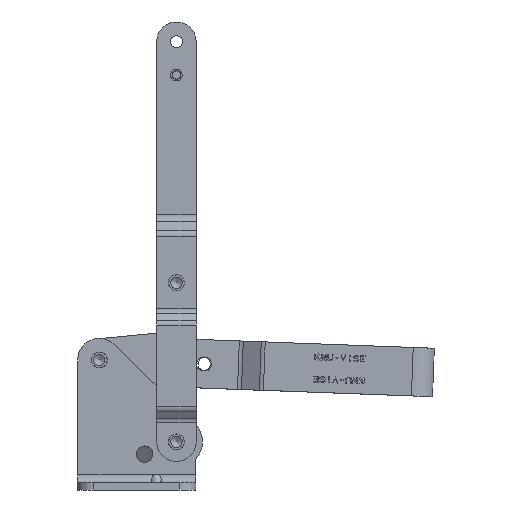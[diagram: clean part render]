
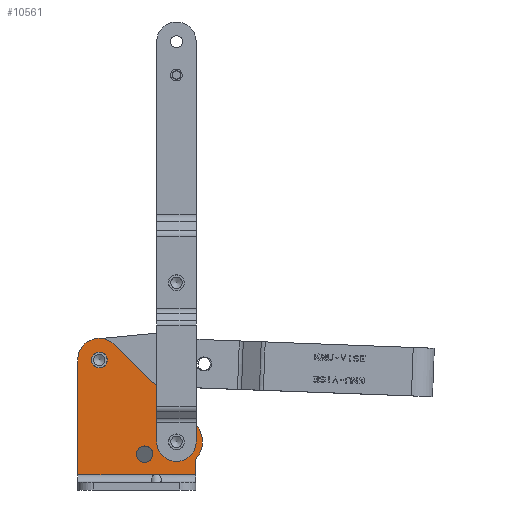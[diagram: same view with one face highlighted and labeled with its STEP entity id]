
A CAD part, front view. The second image highlights one B-rep face of the part: STEP entity #10561.
In plain terms, the highlighted planar face has unit normal (0, -1, 0).
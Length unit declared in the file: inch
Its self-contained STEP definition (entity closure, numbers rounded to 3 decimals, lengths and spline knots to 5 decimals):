
#38=ELLIPSE('',#37233,0.13294,0.094);
#2804=LINE('',#53628,#7200);
#2805=LINE('',#53631,#7201);
#2806=LINE('',#53637,#7202);
#2807=LINE('',#53641,#7203);
#2808=LINE('',#53643,#7204);
#7200=VECTOR('',#43713,1.);
#7201=VECTOR('',#43714,1.);
#7202=VECTOR('',#43719,1.);
#7203=VECTOR('',#43722,1.);
#7204=VECTOR('',#43723,1.);
#10561=ADVANCED_FACE('',(#14004,#14950,#14951,#14952),#12308,.T.);
#12308=PLANE('',#37237);
#14004=FACE_OUTER_BOUND('',#16503,.T.);
#14950=FACE_BOUND('',#16504,.T.);
#14951=FACE_BOUND('',#16505,.T.);
#14952=FACE_BOUND('',#16506,.T.);
#16503=EDGE_LOOP('',(#23395,#23396,#23397,#23398,#23399,#23400,#23401,#23402,
#23403));
#16504=EDGE_LOOP('',(#23404));
#16505=EDGE_LOOP('',(#23405));
#16506=EDGE_LOOP('',(#23406));
#23395=ORIENTED_EDGE('',*,*,#33495,.T.);
#23396=ORIENTED_EDGE('',*,*,#33496,.F.);
#23397=ORIENTED_EDGE('',*,*,#33497,.F.);
#23398=ORIENTED_EDGE('',*,*,#33498,.F.);
#23399=ORIENTED_EDGE('',*,*,#33499,.T.);
#23400=ORIENTED_EDGE('',*,*,#33500,.F.);
#23401=ORIENTED_EDGE('',*,*,#33501,.T.);
#23402=ORIENTED_EDGE('',*,*,#33502,.T.);
#23403=ORIENTED_EDGE('',*,*,#33503,.F.);
#23404=ORIENTED_EDGE('',*,*,#33504,.T.);
#23405=ORIENTED_EDGE('',*,*,#33505,.T.);
#23406=ORIENTED_EDGE('',*,*,#33506,.F.);
#29211=VERTEX_POINT('',#53629);
#29212=VERTEX_POINT('',#53630);
#29213=VERTEX_POINT('',#53632);
#29214=VERTEX_POINT('',#53634);
#29215=VERTEX_POINT('',#53636);
#29216=VERTEX_POINT('',#53638);
#29217=VERTEX_POINT('',#53640);
#29218=VERTEX_POINT('',#53642);
#29219=VERTEX_POINT('',#53644);
#29220=VERTEX_POINT('',#53647);
#29221=VERTEX_POINT('',#53649);
#29222=VERTEX_POINT('',#53651);
#33495=EDGE_CURVE('',#29211,#29212,#2804,.T.);
#33496=EDGE_CURVE('',#29213,#29212,#2805,.T.);
#33497=EDGE_CURVE('',#29214,#29213,#35624,.T.);
#33498=EDGE_CURVE('',#29215,#29214,#35625,.T.);
#33499=EDGE_CURVE('',#29215,#29216,#2806,.T.);
#33500=EDGE_CURVE('',#29217,#29216,#35626,.T.);
#33501=EDGE_CURVE('',#29217,#29218,#2807,.T.);
#33502=EDGE_CURVE('',#29218,#29219,#2808,.T.);
#33503=EDGE_CURVE('',#29211,#29219,#38,.T.);
#33504=EDGE_CURVE('',#29220,#29220,#35627,.T.);
#33505=EDGE_CURVE('',#29221,#29221,#35628,.T.);
#33506=EDGE_CURVE('',#29222,#29222,#35629,.T.);
#35624=CIRCLE('',#37230,0.03125);
#35625=CIRCLE('',#37231,0.413);
#35626=CIRCLE('',#37232,0.343);
#35627=CIRCLE('',#37234,0.1265);
#35628=CIRCLE('',#37235,0.189);
#35629=CIRCLE('',#37236,0.13);
#37230=AXIS2_PLACEMENT_3D('',#53633,#43715,#43716);
#37231=AXIS2_PLACEMENT_3D('',#53635,#43717,#43718);
#37232=AXIS2_PLACEMENT_3D('',#53639,#43720,#43721);
#37233=AXIS2_PLACEMENT_3D('',#53645,#43724,#43725);
#37234=AXIS2_PLACEMENT_3D('',#53646,#43726,#43727);
#37235=AXIS2_PLACEMENT_3D('',#53648,#43728,#43729);
#37236=AXIS2_PLACEMENT_3D('',#53650,#43730,#43731);
#37237=AXIS2_PLACEMENT_3D('',#53652,#43732,#43733);
#43713=DIRECTION('',(1.,0.,0.));
#43714=DIRECTION('',(0.,0.,-1.));
#43715=DIRECTION('',(0.,-1.,0.));
#43716=DIRECTION('',(0.,0.,1.));
#43717=DIRECTION('',(0.,1.,0.));
#43718=DIRECTION('',(-1.,0.,0.));
#43719=DIRECTION('',(-0.714,0.,0.7));
#43720=DIRECTION('',(0.,1.,0.));
#43721=DIRECTION('',(-1.,0.,0.));
#43722=DIRECTION('',(0.,0.,-1.));
#43723=DIRECTION('',(1.,0.,0.));
#43724=DIRECTION('',(0.,-1.,0.));
#43725=DIRECTION('',(0.,0.,1.));
#43726=DIRECTION('',(0.,1.,0.));
#43727=DIRECTION('',(-1.,0.,0.));
#43728=DIRECTION('',(0.,1.,0.));
#43729=DIRECTION('',(-1.,0.,0.));
#43730=DIRECTION('',(0.,-1.,0.));
#43731=DIRECTION('',(0.,0.,1.));
#43732=DIRECTION('',(0.,-1.,0.));
#43733=DIRECTION('',(0.,0.,1.));
#53628=CARTESIAN_POINT('',(-1.57,-0.2786,-0.52));
#53629=CARTESIAN_POINT('',(-0.29348,-0.2786,-0.52));
#53630=CARTESIAN_POINT('',(0.305,-0.2786,-0.52));
#53631=CARTESIAN_POINT('',(0.305,-0.2786,-0.27847));
#53632=CARTESIAN_POINT('',(0.305,-0.2786,-0.29033));
#53633=CARTESIAN_POINT('',(0.33625,-0.2786,-0.29033));
#53634=CARTESIAN_POINT('',(0.3126,-0.2786,-0.26991));
#53635=CARTESIAN_POINT('',(0.,-0.2786,0.));
#53636=CARTESIAN_POINT('',(0.28925,-0.2786,0.29479));
#53637=CARTESIAN_POINT('',(0.28925,-0.2786,0.29479));
#53638=CARTESIAN_POINT('',(-0.98677,-0.2786,1.54683));
#53639=CARTESIAN_POINT('',(-1.227,-0.2786,1.302));
#53640=CARTESIAN_POINT('',(-1.57,-0.2786,1.302));
#53641=CARTESIAN_POINT('',(-1.57,-0.2786,1.302));
#53642=CARTESIAN_POINT('',(-1.57,-0.2786,-0.52));
#53643=CARTESIAN_POINT('',(-1.57,-0.2786,-0.52));
#53644=CARTESIAN_POINT('',(-0.34652,-0.2786,-0.52));
#53645=CARTESIAN_POINT('',(-0.32,-0.2786,-0.64754));
#53646=CARTESIAN_POINT('',(-1.227,-0.2786,1.302));
#53647=CARTESIAN_POINT('',(-1.3535,-0.2786,1.302));
#53648=CARTESIAN_POINT('',(0.,-0.2786,0.));
#53649=CARTESIAN_POINT('',(-0.189,-0.2786,0.));
#53650=CARTESIAN_POINT('',(-0.506,-0.2786,-0.195));
#53651=CARTESIAN_POINT('',(-0.506,-0.2786,-0.325));
#53652=CARTESIAN_POINT('',(0.,-0.2786,0.));
